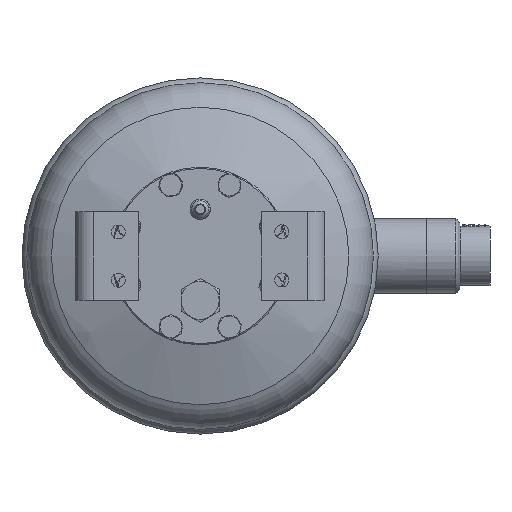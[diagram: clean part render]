
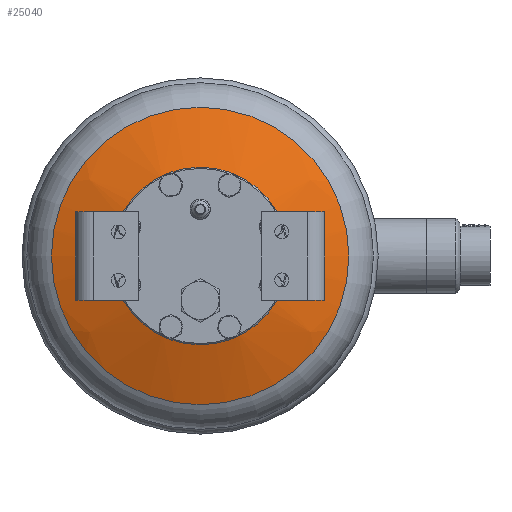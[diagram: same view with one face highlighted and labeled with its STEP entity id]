
A CAD part, front view. The second image highlights one B-rep face of the part: STEP entity #25040.
In plain terms, the highlighted spherical face has radius 279 mm.
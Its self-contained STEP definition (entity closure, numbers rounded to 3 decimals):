
#6270=SPHERICAL_SURFACE('',#26597,279.);
#6273=FACE_BOUND('',#8118,.T.);
#6569=FACE_OUTER_BOUND('',#8117,.T.);
#8117=EDGE_LOOP('',(#17269));
#8118=EDGE_LOOP('',(#17270));
#9959=CIRCLE('',#26596,57.9);
#9960=CIRCLE('',#26598,117.235);
#10785=VERTEX_POINT('',#35493);
#10786=VERTEX_POINT('',#35496);
#13387=EDGE_CURVE('',#10785,#10785,#9959,.T.);
#13388=EDGE_CURVE('',#10786,#10786,#9960,.T.);
#17269=ORIENTED_EDGE('',*,*,#13388,.T.);
#17270=ORIENTED_EDGE('',*,*,#13387,.T.);
#25040=ADVANCED_FACE('',(#6569,#6273),#6270,.T.);
#26596=AXIS2_PLACEMENT_3D('',#35494,#29012,#29013);
#26597=AXIS2_PLACEMENT_3D('',#35495,#29014,#29015);
#26598=AXIS2_PLACEMENT_3D('',#35497,#29016,#29017);
#29012=DIRECTION('center_axis',(0.,1.,0.));
#29013=DIRECTION('ref_axis',(0.,0.,-1.));
#29014=DIRECTION('center_axis',(0.,0.,1.));
#29015=DIRECTION('ref_axis',(1.,0.,0.));
#29016=DIRECTION('center_axis',(0.,-1.,0.));
#29017=DIRECTION('ref_axis',(-1.,0.,0.));
#35493=CARTESIAN_POINT('',(57.9,-81.119,0.));
#35494=CARTESIAN_POINT('Origin',(0.,-81.119,0.));
#35495=CARTESIAN_POINT('Origin',(0.,191.807,
0.));
#35496=CARTESIAN_POINT('',(-117.235,-61.367,0.));
#35497=CARTESIAN_POINT('Origin',(0.,-61.367,
0.));
